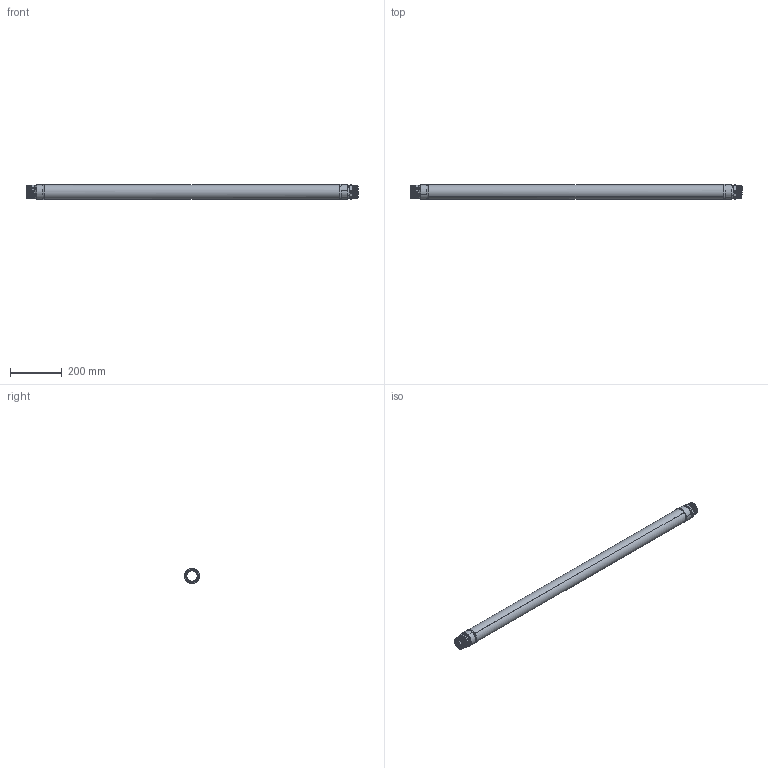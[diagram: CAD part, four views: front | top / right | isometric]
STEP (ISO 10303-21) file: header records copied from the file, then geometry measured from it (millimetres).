
FILE_DESCRIPTION (( 'STEP AP203' ), '1' );
FILE_NAME ('KP_TN40-13S.step', '2011-08-08T11:47:31', ( '' ), ( '' ), 'SwSTEP 2.0', 'SolidWorks 2011', '' );
FILE_SCHEMA (( 'CONFIG_CONTROL_DESIGN' ));
Length unit declared in the file: millimetre
Products named in the file (1): KP_TN40-13S
Bounding box: 1286.09 x 60.3 x 60.3 mm (x, y, z)
Volume: 572925.2 mm3; surface area: 438699.7 mm2
Topology: 1 solids, 1 shells, 128 faces, 324 edges, 208 vertices
Faces by surface type: cone 70, plane 30, cylinder 20, bspline 8
Entity records: 18775 total; most frequent: CARTESIAN_POINT 15823, ORIENTED_EDGE 648, DIRECTION 516, EDGE_CURVE 324, VERTEX_POINT 208, AXIS2_PLACEMENT_3D 201, EDGE_LOOP 140, B_SPLINE_CURVE_WITH_KNOTS 130
